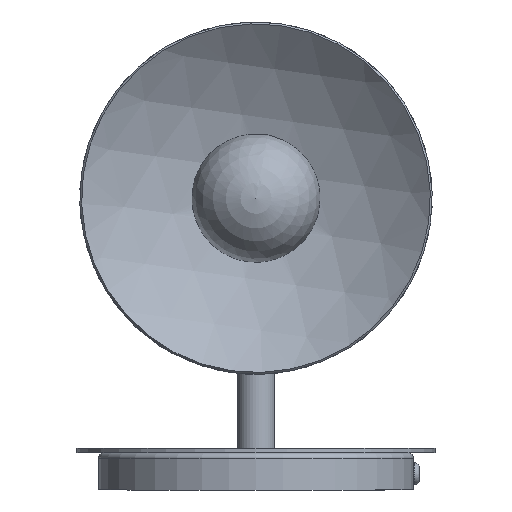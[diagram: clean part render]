
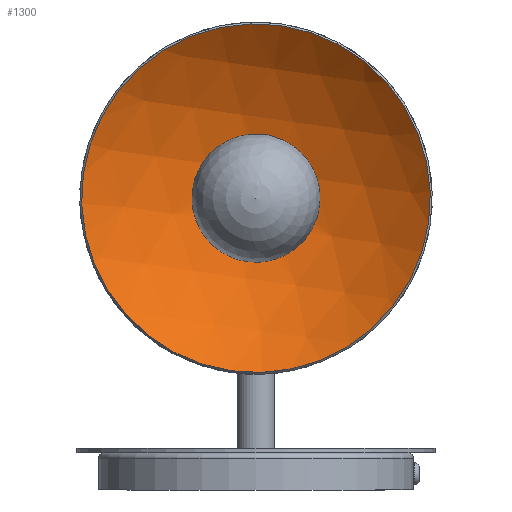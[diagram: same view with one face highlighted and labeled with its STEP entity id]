
A CAD part, front view. The second image highlights one B-rep face of the part: STEP entity #1300.
In plain terms, the highlighted spherical face has radius 90 mm.
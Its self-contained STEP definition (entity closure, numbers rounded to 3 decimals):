
#21=SPHERICAL_SURFACE('',#1461,90.);
#40=FACE_BOUND('',#315,.T.);
#214=FACE_OUTER_BOUND('',#314,.T.);
#314=EDGE_LOOP('',(#865));
#315=EDGE_LOOP('',(#866));
#430=CIRCLE('',#1456,60.832);
#432=CIRCLE('',#1460,14.5);
#543=VERTEX_POINT('',#2189);
#545=VERTEX_POINT('',#2196);
#664=EDGE_CURVE('',#543,#543,#430,.T.);
#667=EDGE_CURVE('',#545,#545,#432,.T.);
#865=ORIENTED_EDGE('',*,*,#664,.F.);
#866=ORIENTED_EDGE('',*,*,#667,.T.);
#1300=ADVANCED_FACE('',(#214,#40),#21,.F.);
#1456=AXIS2_PLACEMENT_3D('',#2191,#1720,#1721);
#1460=AXIS2_PLACEMENT_3D('',#2198,#1729,#1730);
#1461=AXIS2_PLACEMENT_3D('',#2199,#1731,#1732);
#1720=DIRECTION('center_axis',(0.,1.,0.));
#1721=DIRECTION('ref_axis',(-0.99,0.,0.141));
#1729=DIRECTION('center_axis',(0.,1.,0.));
#1730=DIRECTION('ref_axis',(-0.99,0.,0.141));
#1731=DIRECTION('center_axis',(-0.141,0.,
-0.99));
#1732=DIRECTION('ref_axis',(-0.99,0.,0.141));
#2189=CARTESIAN_POINT('',(-60.226,-178.143,97.358));
#2191=CARTESIAN_POINT('Origin',(0.,-178.143,
88.797));
#2196=CARTESIAN_POINT('',(-14.356,-155.647,90.838));
#2198=CARTESIAN_POINT('Origin',(0.,-155.647,
88.797));
#2199=CARTESIAN_POINT('Origin',(0.,-244.471,
88.797));
